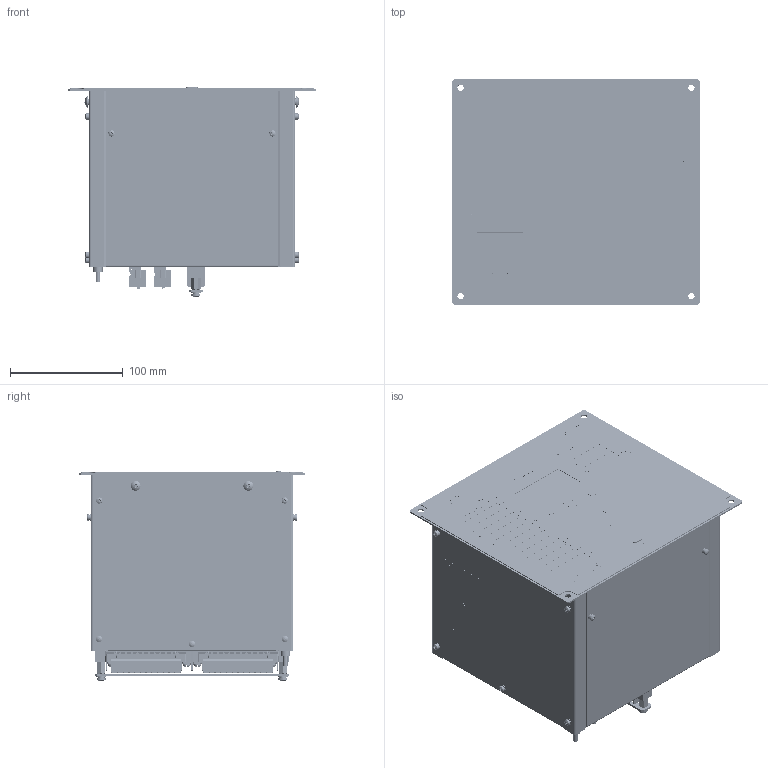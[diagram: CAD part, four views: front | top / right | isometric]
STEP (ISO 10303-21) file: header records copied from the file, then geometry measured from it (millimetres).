
FILE_DESCRIPTION(('STEP AP214'), '1');
FILE_NAME('ﾒﾐﾁﾍ.656122.001-03 - ﾊﾈﾒ-ﾐ', '', ('UNSPECIFIED'), ('UNSPECIFIED'), 'C3D Converter', 'C3D Toolkit', '');
FILE_SCHEMA(('AUTOMOTIVE_DESIGN { 1 0 10303 214 3 1 1}'));
Length unit declared in the file: millimetre
Products named in the file (67): ТРБН.656122.001-03; ТРБН.741128.001; ТРБН.745222.001; ТРБН.301732.001; ТРБН.745422.001; ТРБН.301261.001-03; ТРБН.745512.001-03; ТРБН.434416.011; ТРБН.754342.001; ТРБН.754342.002; ТРБН.434416.012; ТРБН.754342.002-01; ТРБН.434416.013; ТРБН.754342.002-02; ТРБН.434416.014; ТРБН.754342.001-01; ТРБН.754342.002-05; ТРБН.434416.015; ТРБН.754342.002-06; ТРБН.741134.002; ТРБН.754312.001; ТРБН.754342.006; 45H-08P; 45H-08P-01; 691317510012; 6913175100xx_PIN; 6913175100xx_INSERT; 691317510004; -01
Assembly tree (132 placements, depth 4):
  ТРБН.656122.001-03
    (unnamed)
      ТРБН.741128.001
      ТРБН.745222.001  x2
    ТРБН.301732.001  x2
      ТРБН.745422.001
      (unnamed)
      (unnamed)
    ТРБН.301261.001-03
      ТРБН.745512.001-03
      (unnamed)  x2
      (unnamed)
    (unnamed)
    (unnamed)
    (unnamed)
    (unnamed)
    (unnamed)  x10
    (unnamed)
    (unnamed)  x3
    (unnamed)  x12
    (unnamed)  x2
    (unnamed)  x2
    (unnamed)  x4
    (unnamed)
    (unnamed)
    ТРБН.434416.011
      (unnamed)
      ТРБН.754342.001
      ТРБН.754342.002
    ТРБН.434416.012
      (unnamed)
      ТРБН.754342.001
      ТРБН.754342.002-01
    ТРБН.434416.013
      (unnamed)
      ТРБН.754342.001
      ТРБН.754342.002-02
    ТРБН.434416.014
      (unnamed)
      ТРБН.754342.001-01
      ТРБН.754342.002-05
    ТРБН.434416.015
      (unnamed)
      ТРБН.754342.001-01
      ТРБН.754342.002-06
    ТРБН.741134.002
    ТРБН.754312.001
    (unnamed)
    (unnamed)
    (unnamed)
    (unnamed)
    ТРБН.754342.006
    (unnamed)
    (unnamed)
    (unnamed)  x10
    (unnamed)  x2
    (unnamed)
    (unnamed)
      45H-08P
      45H-08P-01
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Bounding box: 220 x 200 x 187.02 mm (x, y, z)
Volume: 354401.3 mm3; surface area: 629735.9 mm2
Topology: 240 solids, 240 shells, 30203 faces, 85906 edges, 56765 vertices
Faces by surface type: plane 17974, cylinder 8903, extrusion 2508, torus 476, bspline 224, cone 97, sphere 21
Full cylindrical faces by diameter (mm): 0.405 x8, 0.482 x8, 0.804 x1, 1.371 x1, 1.771 x1, 1.8 x10, 2.459 x6, 2.5 x10, 2.6 x20, 2.75 x36, 3 x14, 3.2 x22, 3.242 x3, 3.3 x36, 3.301 x16, 3.5 x62, 3.85 x10, 4 x44, 4.2 x6, 4.22 x6, 4.3 x2, 4.5 x9, 5 x6, 5.6 x20, 5.7 x4, 6 x14, 6.35 x6, 6.8 x1, 6.992 x16, 7 x16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
Entity records: 1103078 total; most frequent: CARTESIAN_POINT 216620, ORIENTED_EDGE 148466, DIRECTION 132393, EDGE_CURVE 74233, VECTOR 54653, LINE 52145, VERTEX_POINT 49418, AXIS2_PLACEMENT_3D 38870
